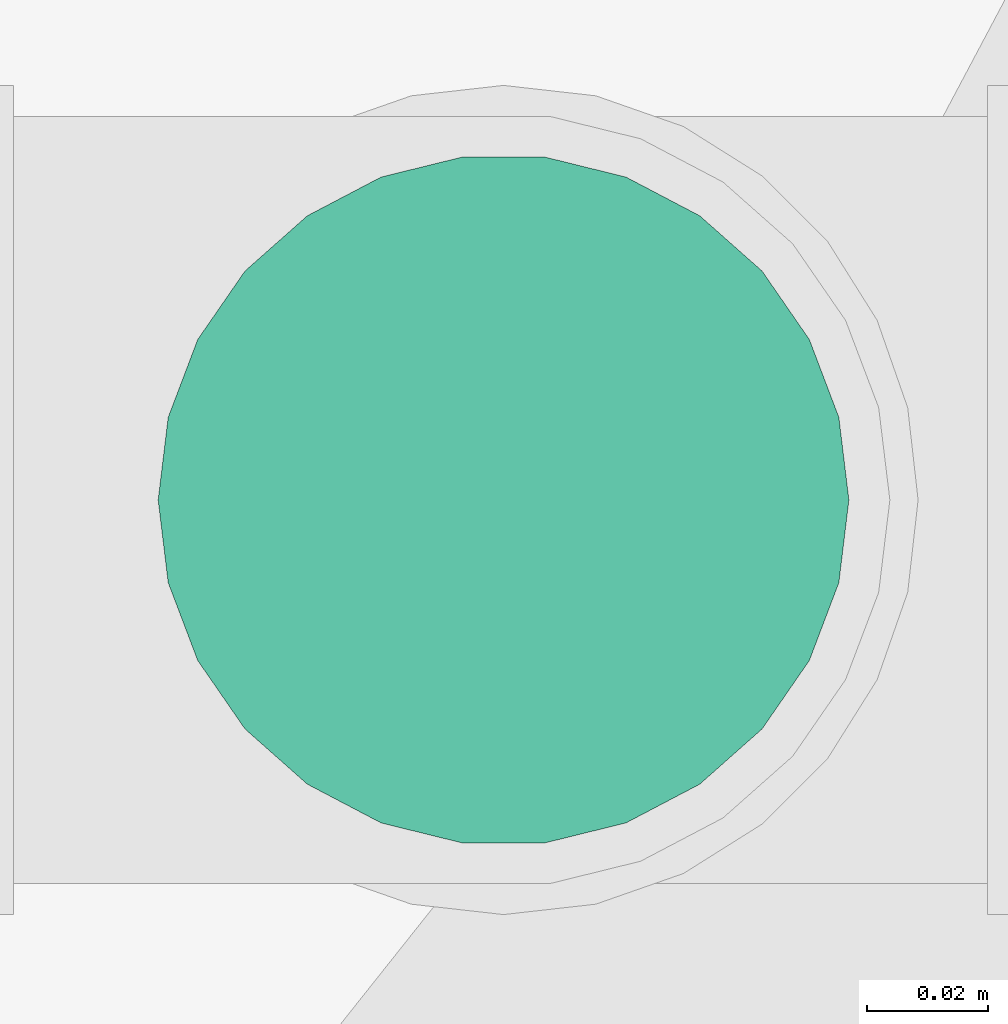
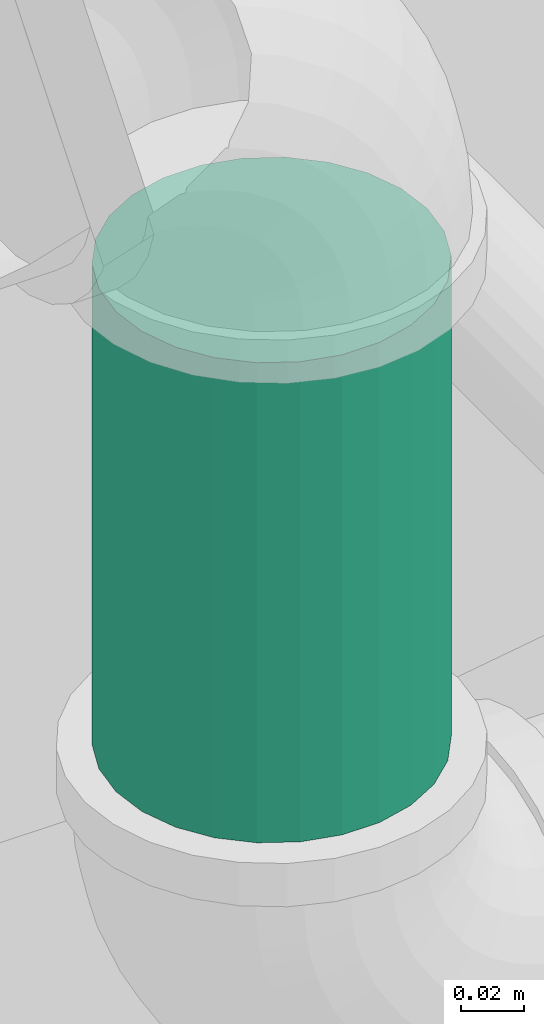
# One storey, part 57 of 108: 1 pipe segment.
"""IFC4 building model written with IfcOpenShell, lengths in feet."""

from ifc_helpers import new_model, entity, si_unit, converted_unit, derived_unit, direction, frame, origin, origin_2d_with_axis, place, context, subcontext, project, spatial, circle, extrude, type_object, element, save


model = new_model("IFC4")

# Units and contexts
model_context = context("Model", 3, precision=0.0001, world=origin(), true_north=direction((6.12303176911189e-17, 1.0)))
body_context = subcontext(model_context, "Body", "Model", "MODEL_VIEW")
ifc_project = project(units=[converted_unit("LENGTHUNIT", "FOOT", entity("IfcRatioMeasure", 0.3048), si_unit("LENGTHUNIT", "METRE"), dimensions=[1, 0, 0, 0, 0, 0, 0]), converted_unit("AREAUNIT", "SQUARE FOOT", entity("IfcRatioMeasure", 0.09290304), si_unit("AREAUNIT", "SQUARE_METRE"), dimensions=[2, 0, 0, 0, 0, 0, 0]), converted_unit("VOLUMEUNIT", "CUBIC FOOT", entity("IfcRatioMeasure", 0.028316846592), si_unit("VOLUMEUNIT", "CUBIC_METRE"), dimensions=[3, 0, 0, 0, 0, 0, 0]), converted_unit("PLANEANGLEUNIT", "DEGREE", entity("IfcRatioMeasure", 0.0174532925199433), si_unit("PLANEANGLEUNIT", "RADIAN"), dimensions=[0, 0, 0, 0, 0, 0, 0]), si_unit("MASSUNIT", "GRAM", prefix="KILO"), derived_unit("MASSDENSITYUNIT", [(si_unit("MASSUNIT", "GRAM", prefix="KILO"), 1), (si_unit("LENGTHUNIT", "METRE"), -3)]), si_unit("TIMEUNIT", "SECOND"), si_unit("FREQUENCYUNIT", "HERTZ"), si_unit("THERMODYNAMICTEMPERATUREUNIT", "DEGREE_CELSIUS"), derived_unit("THERMALTRANSMITTANCEUNIT", [(si_unit("MASSUNIT", "GRAM", prefix="KILO"), 1), (si_unit("THERMODYNAMICTEMPERATUREUNIT", "KELVIN"), -1), (si_unit("TIMEUNIT", "SECOND"), -3)]), derived_unit("VOLUMETRICFLOWRATEUNIT", [(si_unit("LENGTHUNIT", "METRE"), 3), (si_unit("TIMEUNIT", "SECOND"), -1)]), si_unit("ELECTRICCURRENTUNIT", "AMPERE"), si_unit("ELECTRICVOLTAGEUNIT", "VOLT"), si_unit("POWERUNIT", "WATT"), si_unit("FORCEUNIT", "NEWTON"), si_unit("ILLUMINANCEUNIT", "LUX"), si_unit("LUMINOUSFLUXUNIT", "LUMEN"), si_unit("LUMINOUSINTENSITYUNIT", "CANDELA"), derived_unit("USERDEFINED", [(si_unit("MASSUNIT", "GRAM", prefix="KILO"), -1), (si_unit("LENGTHUNIT", "METRE"), -2), (si_unit("TIMEUNIT", "SECOND"), 3), (si_unit("LUMINOUSFLUXUNIT", "LUMEN"), 1)]), derived_unit("LINEARVELOCITYUNIT", [(si_unit("LENGTHUNIT", "METRE"), 1), (si_unit("TIMEUNIT", "SECOND"), -1)]), si_unit("PRESSUREUNIT", "PASCAL"), derived_unit("USERDEFINED", [(si_unit("LENGTHUNIT", "METRE"), -2), (si_unit("MASSUNIT", "GRAM", prefix="KILO"), 1), (si_unit("TIMEUNIT", "SECOND"), -2)])], contexts=[model_context])

# Site, building, storey
site_placement = place(None, origin())
site = spatial("IfcSite", under=ifc_project, at=site_placement, Name="Default", CompositionType="ELEMENT")
building_placement = place(site_placement, origin())
building = spatial("IfcBuilding", under=site, at=building_placement, CompositionType="ELEMENT")
storey_placement = place(building_placement, frame((0.0, 0.0, 168.0)))
storey = spatial("IfcBuildingStorey", under=building, at=storey_placement, Name="Level 15", CompositionType="ELEMENT", Elevation=168.0)

# Pipe segment
pipe_segment_type = type_object("IfcPipeSegmentType", Name="Pipe Types:Hydronic", PredefinedType="NOTDEFINED")
pipe_segment_placement = place(storey_placement, frame((-36.0296482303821, 4.12154962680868, 9.86277343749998)))
element("IfcPipeSegment", 1, at=pipe_segment_placement, inside=storey, type_object=pipe_segment_type, Name="Pipe Types:Hydronic", ObjectType="Pipe Types:Hydronic", PredefinedType="NOTDEFINED", context=body_context, shape_type="SweptSolid", body=[
    extrude(circle(Radius=0.1875, at=origin_2d_with_axis()), frame((0.192733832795, 0.192733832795, 0.0), z_axis=(0.0, 0.0, 1.0), x_axis=(-1.0, 0.0, 0.0)), (0.0, 0.0, 1.0), 0.610950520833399),
])

save(model, "model.ifc")
